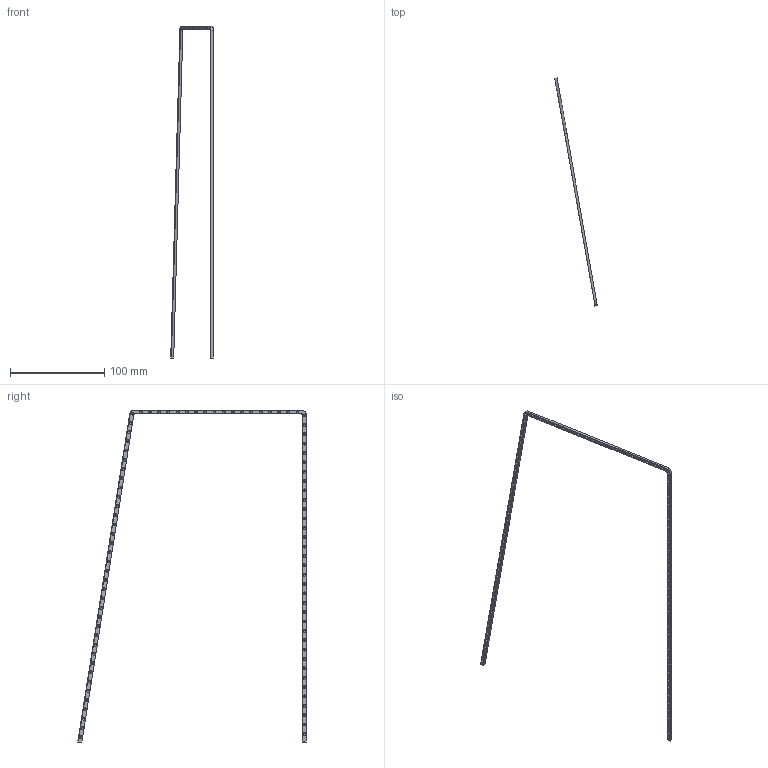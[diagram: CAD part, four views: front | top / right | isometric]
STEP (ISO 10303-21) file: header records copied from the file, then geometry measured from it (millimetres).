
FILE_DESCRIPTION(('STEP AP242 Edition 2','STEP AP242 Edition 2''CAx-IF Rec.Pracs.---Representation and Presentation of Product Manufacturing Information (PMI)---4.0---2014-10-13','STEP AP242 Edition 2''CAx-IF Rec.Pracs.---Representation and Presentation of Product Manufacturing Information (PMI)---4.0---2014-10-13''CAx-IF Rec.Pracs.---3D Tessellated Geometry---0.4---2014-09-14','STEP AP242 Edition 2''CAx-IF Rec.Pracs.---Representation and Presentation of Product Manufacturing Information (PMI)---4.0---2014-10-13''CAx-IF Rec.Pracs.---3D Tessellated Geometry---0.4---2014-09-14''2;1','STEP AP242 Edition 2''CAx-IF Rec.Pracs.---Representation and Presentation of Product Manufacturing Information (PMI)---4.0---2014-10-13''CAx-IF Rec.Pracs.---3D Tessellated Geometry---0.4---2014-09-14''2;1''CAx-IF Rec.Pracs.---User Defined Attributes---1.5---2016-08-15'),'2;1');
FILE_NAME('/vol/tmp/translate-5928582753522486027/Part Studio Body Front - Part Front Right Upper - Door 11 Chrome.step','2026-05-02T13:02:45',(''),(''),'ST-DEVELOPER v20','ONSHAPE BY PTC INC, 1.214',' ');
FILE_SCHEMA(('AP242_MANAGED_MODEL_BASED_3D_ENGINEERING_MIM_LF { 1 0 10303 442 3 1 4 }'));
Length unit declared in the file: metre
Products named in the file (1): Part Front Right Upper - Door 11 Chrome
Bounding box: 45.18 x 242.7 x 352.8 mm (x, y, z)
Volume: 8300.3 mm3; surface area: 12206.7 mm2
Topology: 1 solids, 1 shells, 195 faces, 315 edges, 210 vertices
Faces by surface type: plane 99, cone 90, cylinder 6
Entity records: 4139 total; most frequent: DIRECTION 805, CARTESIAN_POINT 643, ORIENTED_EDGE 450, AXIS2_PLACEMENT_3D 387, EDGE_LOOP 374, FACE_BOUND 374, EDGE_CURVE 225, VERTEX_POINT 209
